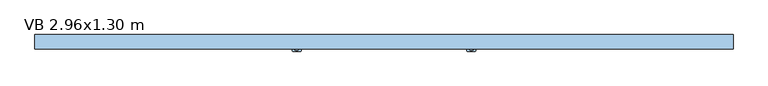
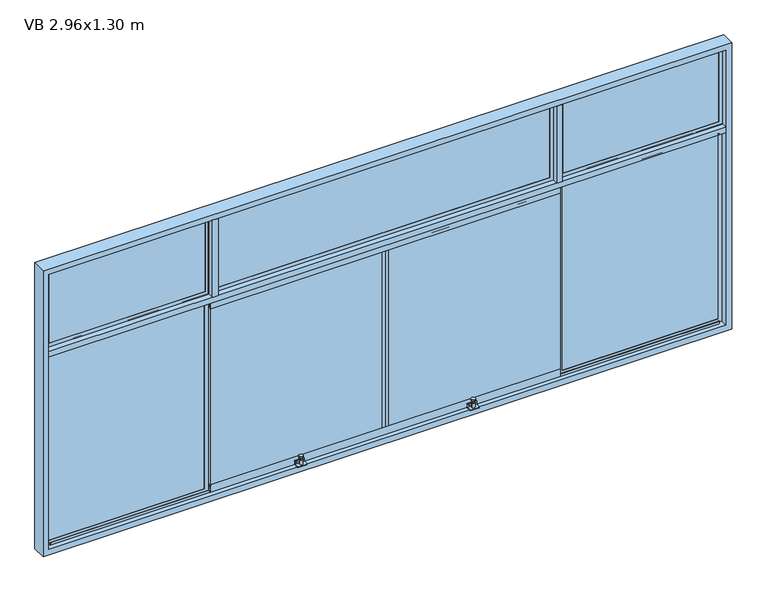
"""IFC4 building model written with IfcOpenShell, lengths in millimetres: window geometry, Ventana baja corrediza 4 cuerpos : VB 2.96x1.30 m."""

from ifc_helpers import new_model, si_unit, point, frame, frame_2d, origin, place, context, project, spatial, polyline, circle_curve, trimmed, segment, composite_curve, outline, extrude, faceted_brep, source, transform, mapped, element, save


def vb_2_96x1_30_m_0cf09963(model_context):
    return source(origin(), model_context, "Body", "SolidModel", [
        extrude(outline(composite_curve([segment(trimmed(circle_curve(frame_2d((370.0, -28.2738075)), 9.1519646), [point((379.1519646, -28.2738075))], [point((360.8480354, -28.2738075))], False, "CARTESIAN"), True, "CONTINUOUS"), segment(trimmed(circle_curve(frame_2d((370.0, -28.2738075)), 9.1519646), [point((360.8480354, -28.2738075))], [point((379.1519646, -28.2738075))], False, "CARTESIAN"), True, "CONTINUOUS")], self_intersect=False)), frame((0.0, 0.0, 966.1518437), z_axis=(0.0, 0.0, 1.0), x_axis=(1.0, 0.0, 0.0)), (0.0, 0.0, 1.0), 3.4852564),
        extrude(outline(composite_curve([segment(trimmed(circle_curve(frame_2d((370.0, -28.2738075)), 4.1308937), [point((374.1308937, -28.2738075))], [point((365.8691063, -28.2738075))], False, "CARTESIAN"), True, "CONTINUOUS"), segment(trimmed(circle_curve(frame_2d((370.0, -28.2738075)), 4.1308937), [point((365.8691063, -28.2738075))], [point((374.1308937, -28.2738075))], False, "CARTESIAN"), True, "CONTINUOUS")], self_intersect=False)), frame((0.0, 0.0, 953.913316), z_axis=(0.0, 0.0, 1.0), x_axis=(1.0, 0.0, 0.0)), (0.0, 0.0, 1.0), 12.2385277),
        extrude(outline(composite_curve([segment(trimmed(circle_curve(frame_2d((370.0, -28.2738075)), 7.026694), [point((377.026694, -28.2738075))], [point((362.973306, -28.2738075))], False, "CARTESIAN"), True, "CONTINUOUS"), segment(trimmed(circle_curve(frame_2d((370.0, -28.2738075)), 7.026694), [point((362.973306, -28.2738075))], [point((377.026694, -28.2738075))], False, "CARTESIAN"), True, "CONTINUOUS")], self_intersect=False)), frame((0.0, 0.0, 932.1776083), z_axis=(0.0, 0.0, 1.0), x_axis=(1.0, 0.0, 0.0)), (0.0, 0.0, 1.0), 21.7357077),
        extrude(outline(composite_curve([segment(trimmed(circle_curve(frame_2d((945.1933283, 388.01572)), 1.98428), [point((945.1933283, 390.0))], [point((947.1776083, 388.01572))], False, "CARTESIAN"), True, "CONTINUOUS"), segment(polyline([(947.1776083, 388.01572), (947.1776083, 351.98428)]), True, "CONTINUOUS"), segment(trimmed(circle_curve(frame_2d((945.1933283, 351.98428)), 1.98428), [point((947.1776083, 351.98428))], [point((945.1933283, 350.0))], False, "CARTESIAN"), True, "CONTINUOUS"), segment(polyline([(945.1933283, 350.0), (932.1776083, 350.0), (932.1776083, 390.0), (945.1933283, 390.0)]), True, "CONTINUOUS")], self_intersect=False), holes=[composite_curve([segment(trimmed(circle_curve(frame_2d((940.5771467, 383.3353779)), 1.6750611), [point((940.5771467, 385.0104391))], [point((940.5771467, 381.6603168))], True, "CARTESIAN"), True, "CONTINUOUS"), segment(trimmed(circle_curve(frame_2d((940.5771467, 383.3353779)), 1.6750611), [point((940.5771467, 381.6603168))], [point((940.5771467, 385.0104391))], True, "CARTESIAN"), True, "CONTINUOUS")], self_intersect=False), composite_curve([segment(trimmed(circle_curve(frame_2d((940.5771467, 356.6646221)), 1.6750611), [point((940.5771467, 354.9895609))], [point((940.5771467, 358.3396832))], True, "CARTESIAN"), True, "CONTINUOUS"), segment(trimmed(circle_curve(frame_2d((940.5771467, 356.6646221)), 1.6750611), [point((940.5771467, 358.3396832))], [point((940.5771467, 354.9895609))], True, "CARTESIAN"), True, "CONTINUOUS")], self_intersect=False)]), frame((0.0, -19.1218429, 0.0), z_axis=(0.0, 1.0, 0.0), x_axis=(0.0, 0.0, 1.0)), (0.0, 0.0, 1.0), 4.012039),
        extrude(outline(composite_curve([segment(polyline([(350.0, -15.1098039), (390.0, -15.1098039), (390.0, -36.2721359)]), True, "CONTINUOUS"), segment(trimmed(circle_curve(frame_2d((386.1623319, -36.2721359)), 3.8376681), [point((390.0, -36.2721359))], [point((386.1623319, -40.1098039))], False, "CARTESIAN"), True, "CONTINUOUS"), segment(polyline([(386.1623319, -40.1098039), (353.8376681, -40.1098039)]), True, "CONTINUOUS"), segment(trimmed(circle_curve(frame_2d((353.8376681, -36.2721359)), 3.8376681), [point((353.8376681, -40.1098039))], [point((350.0, -36.2721359))], False, "CARTESIAN"), True, "CONTINUOUS"), segment(polyline([(350.0, -36.2721359), (350.0, -15.1098039)]), True, "CONTINUOUS")], self_intersect=False)), frame((0.0, 0.0, 928.6104688), z_axis=(0.0, 0.0, 1.0), x_axis=(1.0, 0.0, 0.0)), (0.0, 0.0, 1.0), 3.5671395),
        extrude(outline(composite_curve([segment(trimmed(circle_curve(frame_2d((-370.0, -28.2738075)), 9.1519646), [point((-360.8480354, -28.2738075))], [point((-379.1519646, -28.2738075))], False, "CARTESIAN"), True, "CONTINUOUS"), segment(trimmed(circle_curve(frame_2d((-370.0, -28.2738075)), 9.1519646), [point((-379.1519646, -28.2738075))], [point((-360.8480354, -28.2738075))], False, "CARTESIAN"), True, "CONTINUOUS")], self_intersect=False)), frame((0.0, 0.0, 966.1518437), z_axis=(0.0, 0.0, 1.0), x_axis=(1.0, 0.0, 0.0)), (0.0, 0.0, 1.0), 3.4852564),
        extrude(outline(composite_curve([segment(trimmed(circle_curve(frame_2d((-370.0, -28.2738075)), 4.1308937), [point((-365.8691063, -28.2738075))], [point((-374.1308937, -28.2738075))], False, "CARTESIAN"), True, "CONTINUOUS"), segment(trimmed(circle_curve(frame_2d((-370.0, -28.2738075)), 4.1308937), [point((-374.1308937, -28.2738075))], [point((-365.8691063, -28.2738075))], False, "CARTESIAN"), True, "CONTINUOUS")], self_intersect=False)), frame((0.0, 0.0, 953.913316), z_axis=(0.0, 0.0, 1.0), x_axis=(1.0, 0.0, 0.0)), (0.0, 0.0, 1.0), 12.2385277),
        extrude(outline(composite_curve([segment(trimmed(circle_curve(frame_2d((-370.0, -28.2738075)), 7.026694), [point((-362.973306, -28.2738075))], [point((-377.026694, -28.2738075))], False, "CARTESIAN"), True, "CONTINUOUS"), segment(trimmed(circle_curve(frame_2d((-370.0, -28.2738075)), 7.026694), [point((-377.026694, -28.2738075))], [point((-362.973306, -28.2738075))], False, "CARTESIAN"), True, "CONTINUOUS")], self_intersect=False)), frame((0.0, 0.0, 932.1776083), z_axis=(0.0, 0.0, 1.0), x_axis=(1.0, 0.0, 0.0)), (0.0, 0.0, 1.0), 21.7357077),
        extrude(outline(composite_curve([segment(trimmed(circle_curve(frame_2d((945.1933283, -351.98428)), 1.98428), [point((945.1933283, -350.0))], [point((947.1776083, -351.98428))], False, "CARTESIAN"), True, "CONTINUOUS"), segment(polyline([(947.1776083, -351.98428), (947.1776083, -388.01572)]), True, "CONTINUOUS"), segment(trimmed(circle_curve(frame_2d((945.1933283, -388.01572)), 1.98428), [point((947.1776083, -388.01572))], [point((945.1933283, -390.0))], False, "CARTESIAN"), True, "CONTINUOUS"), segment(polyline([(945.1933283, -390.0), (932.1776083, -390.0), (932.1776083, -350.0), (945.1933283, -350.0)]), True, "CONTINUOUS")], self_intersect=False), holes=[composite_curve([segment(trimmed(circle_curve(frame_2d((940.5771467, -356.6646221)), 1.6750611), [point((940.5771467, -354.9895609))], [point((940.5771467, -358.3396832))], True, "CARTESIAN"), True, "CONTINUOUS"), segment(trimmed(circle_curve(frame_2d((940.5771467, -356.6646221)), 1.6750611), [point((940.5771467, -358.3396832))], [point((940.5771467, -354.9895609))], True, "CARTESIAN"), True, "CONTINUOUS")], self_intersect=False), composite_curve([segment(trimmed(circle_curve(frame_2d((940.5771467, -383.3353779)), 1.6750611), [point((940.5771467, -385.0104391))], [point((940.5771467, -381.6603168))], True, "CARTESIAN"), True, "CONTINUOUS"), segment(trimmed(circle_curve(frame_2d((940.5771467, -383.3353779)), 1.6750611), [point((940.5771467, -381.6603168))], [point((940.5771467, -385.0104391))], True, "CARTESIAN"), True, "CONTINUOUS")], self_intersect=False)]), frame((0.0, -19.1218429, 0.0), z_axis=(0.0, 1.0, 0.0), x_axis=(0.0, 0.0, 1.0)), (0.0, 0.0, 1.0), 4.012039),
        extrude(outline(composite_curve([segment(polyline([(-390.0, -15.1098039), (-350.0, -15.1098039), (-350.0, -36.2721359)]), True, "CONTINUOUS"), segment(trimmed(circle_curve(frame_2d((-353.8376681, -36.2721359)), 3.8376681), [point((-350.0, -36.2721359))], [point((-353.8376681, -40.1098039))], False, "CARTESIAN"), True, "CONTINUOUS"), segment(polyline([(-353.8376681, -40.1098039), (-386.1623319, -40.1098039)]), True, "CONTINUOUS"), segment(trimmed(circle_curve(frame_2d((-386.1623319, -36.2721359)), 3.8376681), [point((-386.1623319, -40.1098039))], [point((-390.0, -36.2721359))], False, "CARTESIAN"), True, "CONTINUOUS"), segment(polyline([(-390.0, -36.2721359), (-390.0, -15.1098039)]), True, "CONTINUOUS")], self_intersect=False)), frame((0.0, 0.0, 928.6104688), z_axis=(0.0, 0.0, 1.0), x_axis=(1.0, 0.0, 0.0)), (0.0, 0.0, 1.0), 3.5671395),
        extrude(outline(polyline([(-727.5, -30.15), (-752.5, -30.15), (-752.5, 30.15), (-727.5, 30.15), (-727.5, -30.15)])), frame((0.0, 0.0, 1825.0), z_axis=(0.0, 0.0, 1.0), x_axis=(1.0, 0.0, 0.0)), (0.0, 0.0, 1.0), 350.0),
        extrude(outline(polyline([(12.7, -13.9001865), (12.7, -4.4001865), (752.5, -4.4001865), (752.5, -13.9001865), (12.7, -13.9001865)])), frame((0.0, 0.0, 948.9759668), z_axis=(0.0, 0.0, 1.0), x_axis=(1.0, 0.0, 0.0)), (0.0, 0.0, 1.0), 827.0480665),
        extrude(outline(polyline([(-756.09375, 1.2096174), (-1451.40625, 1.2096174), (-1451.40625, 10.7096174), (-756.09375, 10.7096174), (-756.09375, 1.2096174)])), frame((0.0, 0.0, 928.59375), z_axis=(0.0, 0.0, 1.0), x_axis=(1.0, 0.0, 0.0)), (0.0, 0.0, 1.0), 867.8125),
        extrude(outline(polyline([(1451.40625, 1.2096174), (756.09375, 1.2096174), (756.09375, 10.7096174), (1451.40625, 10.7096174), (1451.40625, 1.2096174)])), frame((0.0, 0.0, 928.59375), z_axis=(0.0, 0.0, 1.0), x_axis=(1.0, 0.0, 0.0)), (0.0, 0.0, 1.0), 867.8125),
        extrude(outline(polyline([(-756.09375, -4.75), (-1451.40625, -4.75), (-1451.40625, 4.75), (-756.09375, 4.75), (-756.09375, -4.75)])), frame((0.0, 0.0, 1828.59375), z_axis=(0.0, 0.0, 1.0), x_axis=(1.0, 0.0, 0.0)), (0.0, 0.0, 1.0), 342.8125),
        extrude(outline(polyline([(1451.40625, -4.75), (756.09375, -4.75), (756.09375, 4.75), (1451.40625, 4.75), (1451.40625, -4.75)])), frame((0.0, 0.0, 1828.59375), z_axis=(0.0, 0.0, 1.0), x_axis=(1.0, 0.0, 0.0)), (0.0, 0.0, 1.0), 342.8125),
        extrude(outline(composite_curve([segment(polyline([(-10.2821926, 1800.0), (0.0, 1800.0), (0.0, 1797.9830324), (-8.0182357, 1797.9830324), (-8.0182357, 1789.1628008)]), True, "CONTINUOUS"), segment(trimmed(circle_curve(frame_2d((-9.1502142, 1789.8593269)), 1.3291064), [point((-8.0182357, 1789.1628008))], [point((-10.2821926, 1789.1628008))], False, "CARTESIAN"), True, "CONTINUOUS"), segment(polyline([(-10.2821926, 1789.1628008), (-10.2821926, 1800.0)]), True, "CONTINUOUS")], self_intersect=False)), frame((-1438.2282521, 0.0, 0.0), z_axis=(1.0, 0.0, 0.0), x_axis=(0.0, 1.0, 0.0)), (0.0, 0.0, 1.0), 2876.4565041),
        extrude(outline(polyline([(-12.0251865, 1779.6177832), (-6.2751865, 1779.6177832), (-6.2751865, 1796.3895312), (-3.190569, 1796.3895312), (-3.190569, 1762.8460353), (-4.4001865, 1762.8460353), (-4.4001865, 1776.0240332), (-13.9001865, 1776.0240332), (-13.9001865, 1762.8460353), (-15.1098039, 1762.8460353), (-15.1098039, 1796.3895312), (-12.0251865, 1796.3895312), (-12.0251865, 1779.6177832)])), frame((-752.5, 0.0, 0.0), z_axis=(1.0, 0.0, 0.0), x_axis=(0.0, 1.0, 0.0)), (0.0, 0.0, 1.0), 1505.0),
        extrude(outline(polyline([(-6.9867702, 1780.2900719), (-9.1501865, 1782.4534882), (-11.3136028, 1780.2900719), (-11.3136028, 1789.8233667), (-9.1501865, 1787.6599504), (-6.9867702, 1789.8233667), (-6.9867702, 1780.2900719)])), frame((-752.5, 0.0, 0.0), z_axis=(1.0, 0.0, 0.0), x_axis=(0.0, 1.0, 0.0)), (0.0, 0.0, 1.0), 1505.0),
        faceted_brep([(-769.2717479, 0.0, 1783.2282521), (-769.2717479, 1.2096174, 1783.2282521), (-769.2717479, 1.2096174, 941.7717479), (-769.2717479, 0.0, 941.7717479), (-756.09375, 1.2096174, 1796.40625), (-756.09375, 10.7096174, 1796.40625), (-756.09375, 10.7096174, 928.59375), (-756.09375, 1.2096174, 928.59375), (-769.2717479, 10.7096174, 1783.2282521), (-769.2717479, 11.9192349, 1783.2282521), (-769.2717479, 11.9192349, 941.7717479), (-769.2717479, 10.7096174, 941.7717479), (-752.5, 11.9192349, 1800.0), (-752.5, 0.0, 1800.0), (-752.5, 0.0, 925.0), (-752.5, 11.9192349, 925.0), (-1438.2282521, 1.2096174, 941.7717479), (-1438.2282521, 0.0, 941.7717479), (-1451.40625, 10.7096174, 928.59375), (-1451.40625, 1.2096174, 928.59375), (-1438.2282521, 11.9192349, 941.7717479), (-1438.2282521, 10.7096174, 941.7717479), (-1455.0, 0.0, 925.0), (-1455.0, 11.9192349, 925.0), (-1438.2282521, 1.2096174, 1783.2282521), (-1438.2282521, 0.0, 1783.2282521), (-1451.40625, 10.7096174, 1796.40625), (-1451.40625, 1.2096174, 1796.40625), (-1438.2282521, 11.9192349, 1783.2282521), (-1438.2282521, 10.7096174, 1783.2282521), (-1455.0, 0.0, 1800.0), (-1455.0, 11.9192349, 1800.0)], [[[0, 1, 2, 3]], [[4, 5, 6, 7]], [[8, 9, 10, 11]], [[12, 13, 14, 15]], [[3, 2, 16, 17]], [[7, 6, 18, 19]], [[11, 10, 20, 21]], [[15, 14, 22, 23]], [[17, 16, 24, 25]], [[19, 18, 26, 27]], [[21, 20, 28, 29]], [[23, 22, 30, 31]], [[13, 30, 22, 14], [3, 17, 25, 0]], [[25, 24, 1, 0]], [[7, 19, 27, 4], [1, 24, 16, 2]], [[27, 26, 5, 4]], [[5, 26, 18, 6], [11, 21, 29, 8]], [[29, 28, 9, 8]], [[15, 23, 31, 12], [9, 28, 20, 10]], [[31, 30, 13, 12]]]),
        faceted_brep([(769.2717479, 1.2096174, 1783.2282521), (769.2717479, 0.0, 1783.2282521), (769.2717479, 0.0, 941.7717479), (769.2717479, 1.2096174, 941.7717479), (756.09375, 10.7096174, 1796.40625), (756.09375, 1.2096174, 1796.40625), (756.09375, 1.2096174, 928.59375), (756.09375, 10.7096174, 928.59375), (769.2717479, 11.9192349, 1783.2282521), (769.2717479, 10.7096174, 1783.2282521), (769.2717479, 10.7096174, 941.7717479), (769.2717479, 11.9192349, 941.7717479), (752.5, 0.0, 1800.0), (752.5, 11.9192349, 1800.0), (752.5, 11.9192349, 925.0), (752.5, 0.0, 925.0), (1438.2282521, 0.0, 941.7717479), (1438.2282521, 1.2096174, 941.7717479), (1451.40625, 1.2096174, 928.59375), (1451.40625, 10.7096174, 928.59375), (1438.2282521, 10.7096174, 941.7717479), (1438.2282521, 11.9192349, 941.7717479), (1455.0, 11.9192349, 925.0), (1455.0, 0.0, 925.0), (1438.2282521, 0.0, 1783.2282521), (1438.2282521, 1.2096174, 1783.2282521), (1451.40625, 1.2096174, 1796.40625), (1451.40625, 10.7096174, 1796.40625), (1438.2282521, 10.7096174, 1783.2282521), (1438.2282521, 11.9192349, 1783.2282521), (1455.0, 11.9192349, 1800.0), (1455.0, 0.0, 1800.0)], [[[0, 1, 2, 3]], [[4, 5, 6, 7]], [[8, 9, 10, 11]], [[12, 13, 14, 15]], [[3, 2, 16, 17]], [[7, 6, 18, 19]], [[11, 10, 20, 21]], [[15, 14, 22, 23]], [[17, 16, 24, 25]], [[19, 18, 26, 27]], [[21, 20, 28, 29]], [[23, 22, 30, 31]], [[15, 23, 31, 12], [1, 24, 16, 2]], [[25, 24, 1, 0]], [[5, 26, 18, 6], [3, 17, 25, 0]], [[27, 26, 5, 4]], [[7, 19, 27, 4], [9, 28, 20, 10]], [[29, 28, 9, 8]], [[13, 30, 22, 14], [11, 21, 29, 8]], [[31, 30, 13, 12]]]),
        faceted_brep([(-1455.0, -5.9596174, 2175.0), (-1455.0, 5.9596174, 2175.0), (-1455.0, 5.9596174, 1825.0), (-1455.0, -5.9596174, 1825.0), (-1438.2282521, -4.75, 2158.2282521), (-1438.2282521, -5.9596174, 2158.2282521), (-1438.2282521, -5.9596174, 1841.7717479), (-1438.2282521, -4.75, 1841.7717479), (-1451.40625, 4.75, 2171.40625), (-1451.40625, -4.75, 2171.40625), (-1451.40625, -4.75, 1828.59375), (-1451.40625, 4.75, 1828.59375), (-1438.2282521, 5.9596174, 2158.2282521), (-1438.2282521, 4.75, 2158.2282521), (-1438.2282521, 4.75, 1841.7717479), (-1438.2282521, 5.9596174, 1841.7717479), (-752.5, 5.9596174, 1825.0), (-752.5, -5.9596174, 1825.0), (-769.2717479, -5.9596174, 1841.7717479), (-769.2717479, -4.75, 1841.7717479), (-756.09375, -4.75, 1828.59375), (-756.09375, 4.75, 1828.59375), (-769.2717479, 4.75, 1841.7717479), (-769.2717479, 5.9596174, 1841.7717479), (-752.5, 5.9596174, 2175.0), (-752.5, -5.9596174, 2175.0), (-769.2717479, -5.9596174, 2158.2282521), (-769.2717479, -4.75, 2158.2282521), (-756.09375, -4.75, 2171.40625), (-756.09375, 4.75, 2171.40625), (-769.2717479, 4.75, 2158.2282521), (-769.2717479, 5.9596174, 2158.2282521)], [[[0, 1, 2, 3]], [[4, 5, 6, 7]], [[8, 9, 10, 11]], [[12, 13, 14, 15]], [[3, 2, 16, 17]], [[7, 6, 18, 19]], [[11, 10, 20, 21]], [[15, 14, 22, 23]], [[17, 16, 24, 25]], [[19, 18, 26, 27]], [[21, 20, 28, 29]], [[23, 22, 30, 31]], [[25, 24, 1, 0]], [[3, 17, 25, 0], [5, 26, 18, 6]], [[27, 26, 5, 4]], [[9, 28, 20, 10], [7, 19, 27, 4]], [[29, 28, 9, 8]], [[11, 21, 29, 8], [13, 30, 22, 14]], [[31, 30, 13, 12]], [[1, 24, 16, 2], [15, 23, 31, 12]]]),
        faceted_brep([(756.09375, 4.75, 2171.40625), (756.09375, -4.75, 2171.40625), (756.09375, -4.75, 1828.59375), (756.09375, 4.75, 1828.59375), (769.2717479, 5.9596174, 2158.2282521), (769.2717479, 4.75, 2158.2282521), (769.2717479, 4.75, 1841.7717479), (769.2717479, 5.9596174, 1841.7717479), (752.5, -5.9596174, 2175.0), (752.5, 5.9596174, 2175.0), (752.5, 5.9596174, 1825.0), (752.5, -5.9596174, 1825.0), (769.2717479, -4.75, 2158.2282521), (769.2717479, -5.9596174, 2158.2282521), (769.2717479, -5.9596174, 1841.7717479), (769.2717479, -4.75, 1841.7717479), (1451.40625, -4.75, 1828.59375), (1451.40625, 4.75, 1828.59375), (1438.2282521, 4.75, 1841.7717479), (1438.2282521, 5.9596174, 1841.7717479), (1455.0, 5.9596174, 1825.0), (1455.0, -5.9596174, 1825.0), (1438.2282521, -5.9596174, 1841.7717479), (1438.2282521, -4.75, 1841.7717479), (1451.40625, -4.75, 2171.40625), (1451.40625, 4.75, 2171.40625), (1438.2282521, 4.75, 2158.2282521), (1438.2282521, 5.9596174, 2158.2282521), (1455.0, 5.9596174, 2175.0), (1455.0, -5.9596174, 2175.0), (1438.2282521, -5.9596174, 2158.2282521), (1438.2282521, -4.75, 2158.2282521)], [[[0, 1, 2, 3]], [[4, 5, 6, 7]], [[8, 9, 10, 11]], [[12, 13, 14, 15]], [[3, 2, 16, 17]], [[7, 6, 18, 19]], [[11, 10, 20, 21]], [[15, 14, 22, 23]], [[17, 16, 24, 25]], [[19, 18, 26, 27]], [[21, 20, 28, 29]], [[23, 22, 30, 31]], [[25, 24, 1, 0]], [[3, 17, 25, 0], [5, 26, 18, 6]], [[27, 26, 5, 4]], [[9, 28, 20, 10], [7, 19, 27, 4]], [[29, 28, 9, 8]], [[11, 21, 29, 8], [13, 30, 22, 14]], [[31, 30, 13, 12]], [[1, 24, 16, 2], [15, 23, 31, 12]]]),
        extrude(outline(polyline([(752.5, -30.15), (727.5, -30.15), (727.5, 30.15), (752.5, 30.15), (752.5, -30.15)])), frame((0.0, 0.0, 1825.0), z_axis=(0.0, 0.0, 1.0), x_axis=(1.0, 0.0, 0.0)), (0.0, 0.0, 1.0), 350.0),
        extrude(outline(polyline([(-727.5, 0.0), (-752.5, 0.0), (-752.5, 30.15), (-727.5, 30.15), (-727.5, 0.0)])), frame((0.0, 0.0, 925.0), z_axis=(0.0, 0.0, 1.0), x_axis=(1.0, 0.0, 0.0)), (0.0, 0.0, 1.0), 875.0),
        extrude(outline(polyline([(752.5, 0.0), (727.5, 0.0), (727.5, 30.15), (752.5, 30.15), (752.5, 0.0)])), frame((0.0, 0.0, 925.0), z_axis=(0.0, 0.0, 1.0), x_axis=(1.0, 0.0, 0.0)), (0.0, 0.0, 1.0), 875.0),
        extrude(outline(polyline([(1455.0, 30.15), (1455.0, -30.15), (-1455.0, -30.15), (-1455.0, 30.15), (1455.0, 30.15)])), frame((0.0, 0.0, 1800.0), z_axis=(0.0, 0.0, 1.0), x_axis=(1.0, 0.0, 0.0)), (0.0, 0.0, 1.0), 25.0),
        extrude(outline(polyline([(900.0, -1480.0), (900.0, 1480.0), (2200.0, 1480.0), (2200.0, -1480.0), (900.0, -1480.0)]), holes=[polyline([(2175.0, -1455.0), (2175.0, 1455.0), (925.0, 1455.0), (925.0, -1455.0), (2175.0, -1455.0)])]), frame((0.0, -30.15, 0.0), z_axis=(0.0, 1.0, 0.0), x_axis=(0.0, 0.0, 1.0)), (0.0, 0.0, 1.0), 60.3),
        extrude(outline(polyline([(-3.190569, 962.1539647), (-3.190569, 928.6104688), (-6.2751865, 928.6104688), (-6.2751865, 945.3822168), (-12.0251865, 945.3822168), (-12.0251865, 928.6104688), (-15.1098039, 928.6104688), (-15.1098039, 962.1539647), (-13.9001865, 962.1539647), (-13.9001865, 948.9759668), (-4.4001865, 948.9759668), (-4.4001865, 962.1539647), (-3.190569, 962.1539647)])), frame((-752.5, 0.0, 0.0), z_axis=(1.0, 0.0, 0.0), x_axis=(0.0, 1.0, 0.0)), (0.0, 0.0, 1.0), 1505.0),
        extrude(outline(polyline([(-9.1501865, 942.5465118), (-6.9867702, 944.7099281), (-6.9867702, 935.1766333), (-9.1501865, 937.3400496), (-11.3136028, 935.1766333), (-11.3136028, 944.7099281), (-9.1501865, 942.5465118)])), frame((-752.5, 0.0, 0.0), z_axis=(1.0, 0.0, 0.0), x_axis=(0.0, 1.0, 0.0)), (0.0, 0.0, 1.0), 1505.0),
        extrude(outline(polyline([(723.90625, -4.75), (-723.90625, -4.75), (-723.90625, 4.75), (723.90625, 4.75), (723.90625, -4.75)])), frame((0.0, 0.0, 1828.59375), z_axis=(0.0, 0.0, 1.0), x_axis=(1.0, 0.0, 0.0)), (0.0, 0.0, 1.0), 342.8125),
        faceted_brep([(727.5, -5.9596174, 2175.0), (727.5, 5.9596174, 2175.0), (-727.5, 5.9596174, 2175.0), (-727.5, -5.9596174, 2175.0), (-727.5, 5.9596174, 1825.0), (-727.5, -5.9596174, 1825.0), (727.5, 5.9596174, 1825.0), (-710.7282521, 5.9596174, 1841.7717479), (710.7282521, 5.9596174, 1841.7717479), (710.7282521, 5.9596174, 2158.2282521), (-710.7282521, 5.9596174, 2158.2282521), (727.5, -5.9596174, 1825.0), (-710.7282521, -5.9596174, 2158.2282521), (710.7282521, -5.9596174, 2158.2282521), (710.7282521, -5.9596174, 1841.7717479), (-710.7282521, -5.9596174, 1841.7717479), (710.7282521, -4.75, 2158.2282521), (-710.7282521, -4.75, 2158.2282521), (-710.7282521, -4.75, 1841.7717479), (-723.90625, -4.75, 2171.40625), (723.90625, -4.75, 2171.40625), (723.90625, -4.75, 1828.59375), (-723.90625, -4.75, 1828.59375), (710.7282521, -4.75, 1841.7717479), (723.90625, 4.75, 2171.40625), (-723.90625, 4.75, 2171.40625), (-723.90625, 4.75, 1828.59375), (723.90625, 4.75, 1828.59375), (-710.7282521, 4.75, 2158.2282521), (710.7282521, 4.75, 2158.2282521), (710.7282521, 4.75, 1841.7717479), (-710.7282521, 4.75, 1841.7717479)], [[[0, 1, 2, 3]], [[3, 2, 4, 5]], [[2, 1, 6, 4], [7, 8, 9, 10]], [[5, 11, 0, 3], [12, 13, 14, 15]], [[16, 13, 12, 17]], [[17, 12, 15, 18]], [[19, 20, 21, 22], [18, 23, 16, 17]], [[24, 20, 19, 25]], [[25, 19, 22, 26]], [[26, 27, 24, 25], [28, 29, 30, 31]], [[9, 29, 28, 10]], [[10, 28, 31, 7]], [[11, 6, 1, 0]], [[23, 14, 13, 16]], [[27, 21, 20, 24]], [[8, 30, 29, 9]], [[5, 4, 6, 11]], [[18, 15, 14, 23]], [[26, 22, 21, 27]], [[7, 31, 30, 8]]]),
        extrude(outline(composite_curve([segment(polyline([(-10.2821926, 925.0), (-10.2821926, 935.8371992)]), True, "CONTINUOUS"), segment(trimmed(circle_curve(frame_2d((-9.1502142, 935.1406731)), 1.3291064), [point((-10.2821926, 935.8371992))], [point((-8.0182357, 935.8371992))], False, "CARTESIAN"), True, "CONTINUOUS"), segment(polyline([(-8.0182357, 935.8371992), (-8.0182357, 927.0169676), (0.0, 927.0169676), (0.0, 925.0), (-10.2821926, 925.0)]), True, "CONTINUOUS")], self_intersect=False)), frame((-1438.2282521, 0.0, 0.0), z_axis=(1.0, 0.0, 0.0), x_axis=(0.0, 1.0, 0.0)), (0.0, 0.0, 1.0), 2876.4565041),
        extrude(outline(polyline([(-12.7, -13.9001865), (-752.5, -13.9001865), (-752.5, -4.4001865), (-12.7, -4.4001865), (-12.7, -13.9001865)])), frame((0.0, 0.0, 948.9759668), z_axis=(0.0, 0.0, 1.0), x_axis=(1.0, 0.0, 0.0)), (0.0, 0.0, 1.0), 827.0480665),
        extrude(outline(polyline([(0.0, -15.3810154), (-12.7, -15.3810154), (-12.7, -2.8879527), (0.0, -2.8879527), (0.0, -15.3810154)])), frame((0.0, 0.0, 928.6104688), z_axis=(0.0, 0.0, 1.0), x_axis=(1.0, 0.0, 0.0)), (0.0, 0.0, 1.0), 867.7790623),
        extrude(outline(polyline([(12.7, -15.3810154), (0.0, -15.3810154), (0.0, -2.8879527), (12.7, -2.8879527), (12.7, -15.3810154)])), frame((0.0, 0.0, 928.6104688), z_axis=(0.0, 0.0, 1.0), x_axis=(1.0, 0.0, 0.0)), (0.0, 0.0, 1.0), 867.7790623),
    ])


if __name__ == "__main__":
    model = new_model("IFC4")
    model_context = context("Model", 3, world=origin())
    ifc_project = project(units=[si_unit("LENGTHUNIT", "METRE", prefix="MILLI")], contexts=[model_context])
    site = spatial("IfcSite", under=ifc_project)
    building = spatial("IfcBuilding", under=site)
    placement = place(None, origin())
    vb_2_96x1_30_m_shape = vb_2_96x1_30_m_0cf09963(model_context)
    element("IfcWindow", 1, ObjectType="Ventana baja corrediza 4 cuerpos : VB 2.96x1.30 m", at=placement, inside=building, context=model_context, shape_type="MappedRepresentation", body=[
        mapped(vb_2_96x1_30_m_shape, transform((0.0, 0.0, 0.0), x_axis=(1.0, 0.0, 0.0), y_axis=(0.0, 1.0, 0.0), z_axis=(0.0, 0.0, 1.0))),
    ])
    save(model, "model.ifc")
